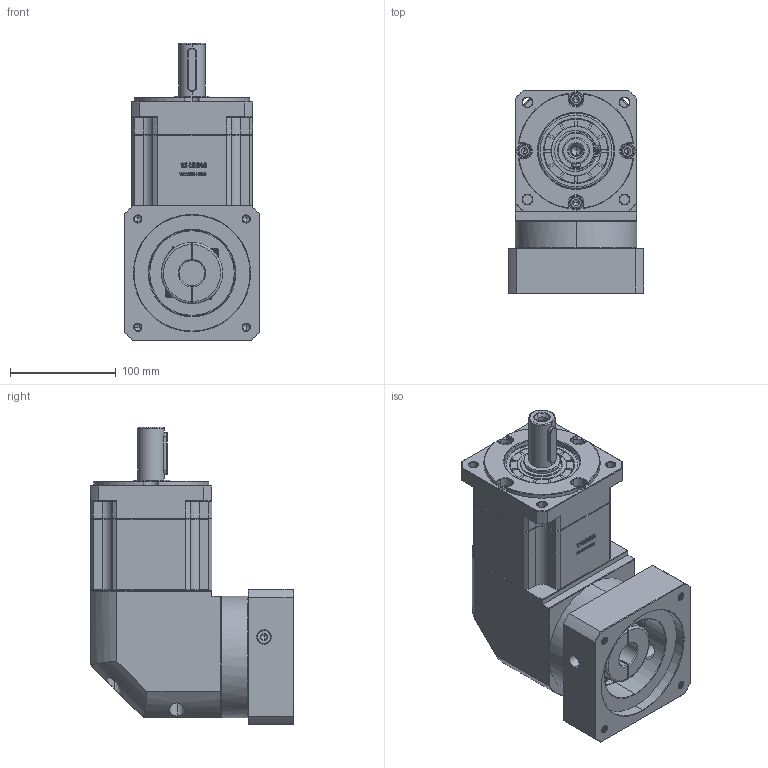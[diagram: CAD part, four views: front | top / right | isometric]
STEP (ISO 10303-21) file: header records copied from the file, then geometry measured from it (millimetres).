
FILE_DESCRIPTION (( 'STEP AP214' ), '1' );
FILE_NAME ('ZBR115A-D25-L2-24-110-145-M8.step', '2023-03-03T04:57:17', ( '' ), ( 'Microsoft' ), 'SwSTEP 2.0', 'SolidWorks 2016', '' );
FILE_SCHEMA (( 'AUTOMOTIVE_DESIGN' ));
Length unit declared in the file: millimetre
Products named in the file (1): ZBR115A-D25-L2-24-110-145-M8
Bounding box: 128 x 192.4 x 281.5 mm (x, y, z)
Volume: 3368194.7 mm3; surface area: 266265.1 mm2
Topology: 6 solids, 6 shells, 2981 faces, 7919 edges, 5084 vertices
Faces by surface type: plane 1559, bspline 606, cylinder 439, cone 369, torus 8
Entity records: 161752 total; most frequent: CARTESIAN_POINT 59748, ORIENTED_EDGE 15778, DIRECTION 11949, EDGE_CURVE 7889, LINE 5307, VECTOR 5307, VERTEX_POINT 5084, AXIS2_PLACEMENT_3D 3321
